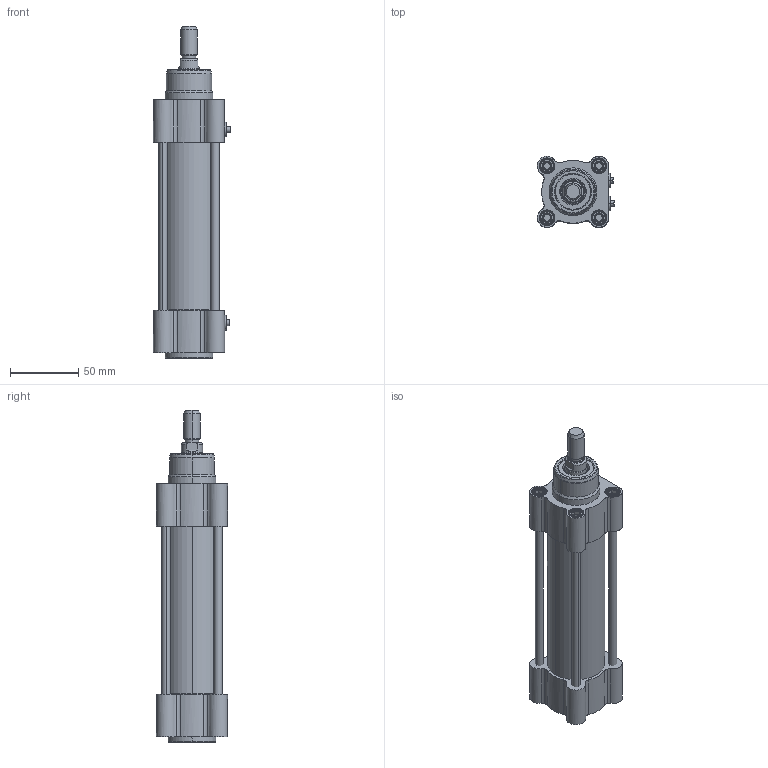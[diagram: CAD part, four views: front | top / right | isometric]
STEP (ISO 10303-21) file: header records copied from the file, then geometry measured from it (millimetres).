
FILE_DESCRIPTION (( 'STEP AP203' ), '1' );
FILE_NAME ('CTMI40-80.STEP', '2020-03-26T19:09:45', ( '' ), ( '' ), 'SwSTEP 2.0', 'SolidWorks 2019', '' );
FILE_SCHEMA (( 'CONFIG_CONTROL_DESIGN' ));
Length unit declared in the file: millimetre
Products named in the file (1): CTMI40-80
Bounding box: 56.38 x 52 x 243 mm (x, y, z)
Surface area: 99408.1 mm2 (no closed solid volume)
Topology: 0 solids, 24 shells, 689 faces, 1578 edges, 970 vertices
Faces by surface type: cylinder 201, cone 195, plane 193, torus 84, bspline 16
Entity records: 29688 total; most frequent: CARTESIAN_POINT 16244, ORIENTED_EDGE 3112, DIRECTION 2051, EDGE_CURVE 1578, B_SPLINE_CURVE_WITH_KNOTS 995, VERTEX_POINT 970, AXIS2_PLACEMENT_3D 842, EDGE_LOOP 764
